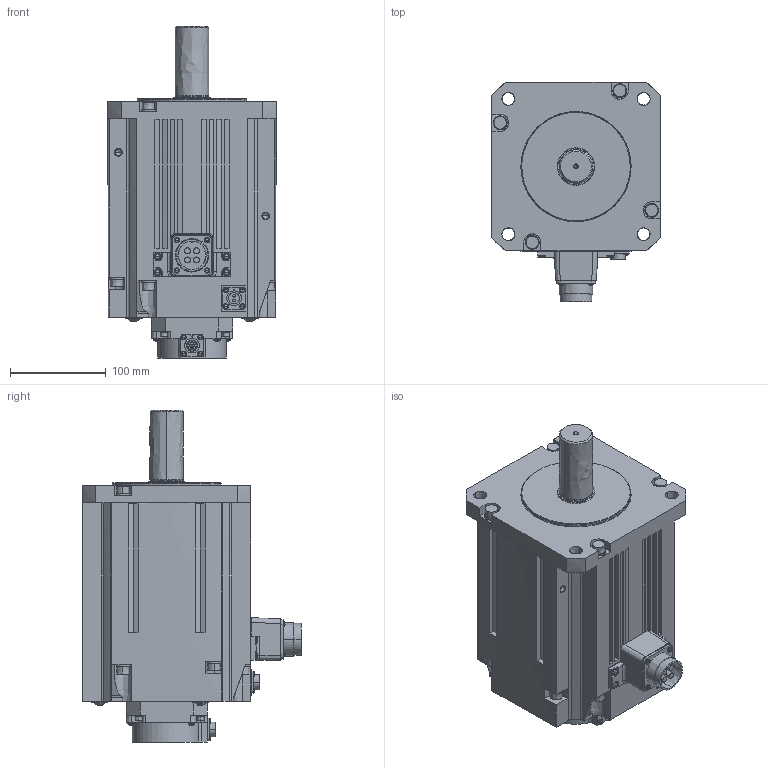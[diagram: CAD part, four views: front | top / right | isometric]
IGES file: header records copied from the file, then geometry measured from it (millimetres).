
Start section:  PTC IGES file: hk-st702wb.igs
Global section: file name: hk-st702wb.igs; native system: Creo Parametric by PTC Inc.; preprocessor: 2017480; author: BA00863; organization: Unknown; date: 20200310.135243; units: millimetre
Bounding box: 176 x 228.8 x 347 mm (x, y, z)
Volume: 6506657.7 mm3; surface area: 285257.6 mm2
Topology: 1 solids, 5 shells, 693 faces, 1686 edges, 1061 vertices
Faces by surface type: bspline 693
